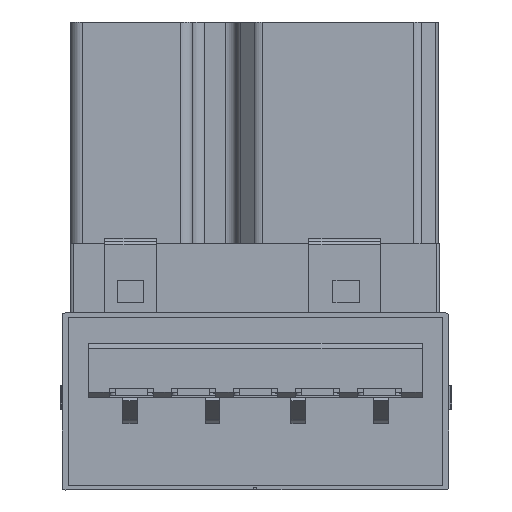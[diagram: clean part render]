
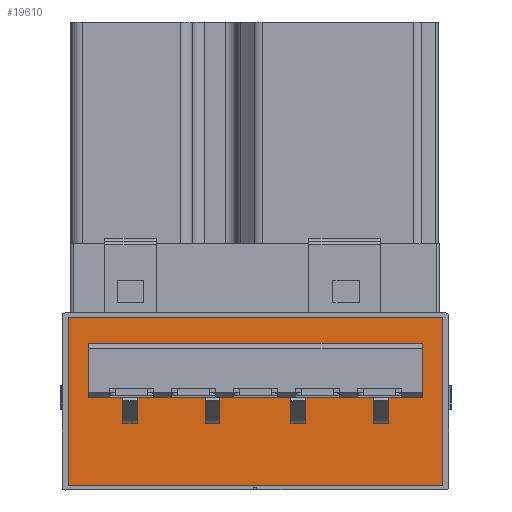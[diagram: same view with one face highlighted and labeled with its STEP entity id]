
A CAD part, front view. The second image highlights one B-rep face of the part: STEP entity #19610.
In plain terms, the highlighted planar face has unit normal (0, -1, 0) as drawn and (0, 1, 0) by its records, which use the part's own axes.
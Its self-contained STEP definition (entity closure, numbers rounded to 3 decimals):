
#9624 = VERTEX_POINT('',#9625);
#9625 = CARTESIAN_POINT('',(0.,3.55,-4.1));
#9631 = EDGE_CURVE('',#9624,#9632,#9634,.T.);
#9632 = VERTEX_POINT('',#9633);
#9633 = CARTESIAN_POINT('',(12.7,3.55,-4.1));
#9634 = LINE('',#9635,#9636);
#9635 = CARTESIAN_POINT('',(12.7,3.55,-4.1));
#9636 = VECTOR('',#9637,1.);
#9637 = DIRECTION('',(1.,0.,0.));
#10202 = EDGE_CURVE('',#10203,#10205,#10207,.T.);
#10203 = VERTEX_POINT('',#10204);
#10204 = CARTESIAN_POINT('',(12.7,3.55,1.58));
#10205 = VERTEX_POINT('',#10206);
#10206 = CARTESIAN_POINT('',(0.,3.55,1.58));
#10207 = LINE('',#10208,#10209);
#10208 = CARTESIAN_POINT('',(12.7,3.55,1.58));
#10209 = VECTOR('',#10210,1.);
#10210 = DIRECTION('',(-1.,0.,0.));
#10337 = EDGE_CURVE('',#9632,#10203,#10338,.T.);
#10338 = LINE('',#10339,#10340);
#10339 = CARTESIAN_POINT('',(12.7,3.55,-4.1));
#10340 = VECTOR('',#10341,1.);
#10341 = DIRECTION('',(0.,0.,1.));
#10458 = EDGE_CURVE('',#10205,#9624,#10459,.T.);
#10459 = LINE('',#10460,#10461);
#10460 = CARTESIAN_POINT('',(0.,3.55,-4.1));
#10461 = VECTOR('',#10462,1.);
#10462 = DIRECTION('',(0.,0.,-1.));
#18689 = VERTEX_POINT('',#18690);
#18690 = CARTESIAN_POINT('',(0.7,3.55,-1.4));
#18696 = EDGE_CURVE('',#18689,#18697,#18699,.T.);
#18697 = VERTEX_POINT('',#18698);
#18698 = CARTESIAN_POINT('',(12.,3.55,-1.4));
#18699 = LINE('',#18700,#18701);
#18700 = CARTESIAN_POINT('',(0.,3.55,-1.4));
#18701 = VECTOR('',#18702,1.);
#18702 = DIRECTION('',(1.,0.,0.));
#18891 = VERTEX_POINT('',#18892);
#18892 = CARTESIAN_POINT('',(12.,3.55,-3.24));
#18898 = EDGE_CURVE('',#18899,#18891,#18901,.T.);
#18899 = VERTEX_POINT('',#18900);
#18900 = CARTESIAN_POINT('',(0.7,3.55,-3.24));
#18901 = LINE('',#18902,#18903);
#18902 = CARTESIAN_POINT('',(0.,3.55,-3.24));
#18903 = VECTOR('',#18904,1.);
#18904 = DIRECTION('',(1.,0.,0.));
#18922 = EDGE_CURVE('',#18899,#18689,#18923,.T.);
#18923 = LINE('',#18924,#18925);
#18924 = CARTESIAN_POINT('',(0.7,3.55,40.721));
#18925 = VECTOR('',#18926,1.);
#18926 = DIRECTION('',(0.,0.,1.));
#18943 = EDGE_CURVE('',#18697,#18891,#18944,.T.);
#18944 = LINE('',#18945,#18946);
#18945 = CARTESIAN_POINT('',(12.,3.55,40.721));
#18946 = VECTOR('',#18947,1.);
#18947 = DIRECTION('',(0.,0.,-1.));
#19610 = ADVANCED_FACE('',(#19611,#19617),#19623,.F.);
#19611 = FACE_BOUND('',#19612,.T.);
#19612 = EDGE_LOOP('',(#19613,#19614,#19615,#19616));
#19613 = ORIENTED_EDGE('',*,*,#18943,.F.);
#19614 = ORIENTED_EDGE('',*,*,#18696,.F.);
#19615 = ORIENTED_EDGE('',*,*,#18922,.F.);
#19616 = ORIENTED_EDGE('',*,*,#18898,.T.);
#19617 = FACE_BOUND('',#19618,.T.);
#19618 = EDGE_LOOP('',(#19619,#19620,#19621,#19622));
#19619 = ORIENTED_EDGE('',*,*,#10337,.F.);
#19620 = ORIENTED_EDGE('',*,*,#9631,.F.);
#19621 = ORIENTED_EDGE('',*,*,#10458,.F.);
#19622 = ORIENTED_EDGE('',*,*,#10202,.F.);
#19623 = PLANE('',#19624);
#19624 = AXIS2_PLACEMENT_3D('',#19625,#19626,#19627);
#19625 = CARTESIAN_POINT('',(62.565,3.55,
    -1.25));
#19626 = DIRECTION('',(0.,-1.,0.));
#19627 = DIRECTION('',(0.,0.,-1.));
